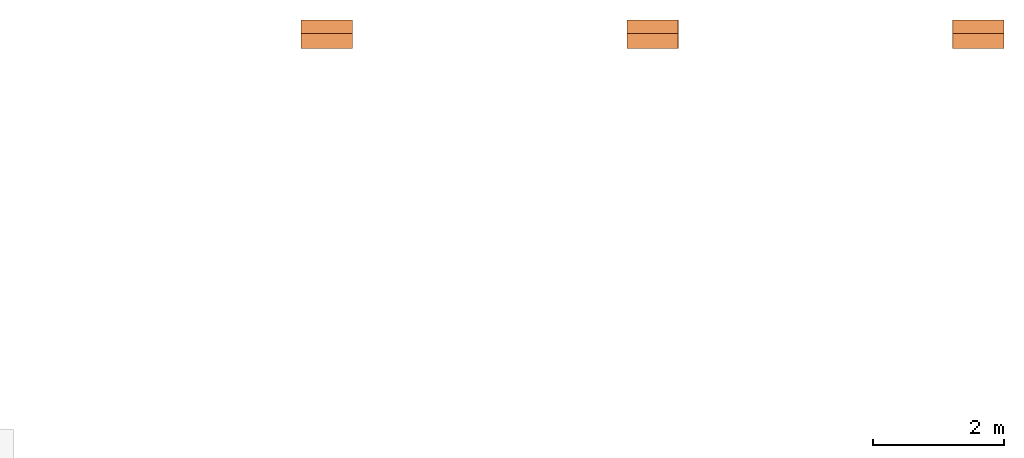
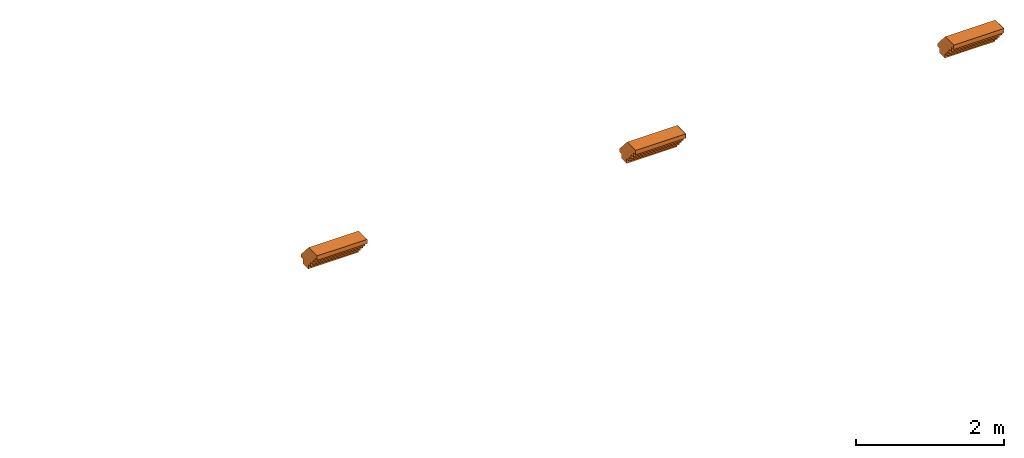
# One storey, part 2 of 2: 5 proxies.
"""IFC2X3 building model written with IfcOpenShell, lengths in metres."""

import ifcopenshell
import ifcopenshell.guid

model = None  # the IFC model being written
_history = None  # IfcOwnerHistory: only IFC2X3 demands one
_inside = {}  # id of a spatial element -> (the spatial element, [elements in it])
_under = {}  # id of a project, library or spatial element -> (it, [spatial elements below it])
_declared = {}  # id of a project -> (the project, [libraries it declares])
_typed = {}  # id of a type object -> (the type object, [elements of that type])
_made_of = {}  # id of a material, layer set ... -> (it, [elements and type objects made of it])


def new_model(schema):
    """Start an empty IFC model of exactly this schema.

    Asked for "IFC4X3", IfcOpenShell would pick the latest addendum, in which some entities
    have other attributes; the version numbers below select the first issue.
    IFC2X3 requires an IfcOwnerHistory on every rooted entity: one is made here for all.
    """
    global model, _history
    if schema == "IFC4X3":
        model = ifcopenshell.file(schema_version=(4, 3, 0, 0))
    else:
        model = ifcopenshell.file(schema=schema)
    _inside.clear()
    _under.clear()
    _declared.clear()
    _typed.clear()
    _made_of.clear()
    _history = None
    if model.schema == "IFC2X3":
        org = make("IfcOrganization", Name="unknown")
        user = make(
            "IfcPersonAndOrganization",
            ThePerson=make("IfcPerson", FamilyName="unknown"),
            TheOrganization=org,
        )
        app = make(
            "IfcApplication",
            ApplicationDeveloper=org,
            Version="unknown",
            ApplicationFullName="unknown",
            ApplicationIdentifier="unknown",
        )
        _history = make(
            "IfcOwnerHistory",
            OwningUser=user,
            OwningApplication=app,
            ChangeAction="ADDED",
            CreationDate=0,
        )
    return model


def make(cls, **values):
    """One entity of the class cls with the attributes given. An attribute that is None is left unset."""
    return model.create_entity(
        cls, **{name: value for name, value in values.items() if value is not None}
    )


def entity(cls, *values):
    """Any entity or typed value of the class cls, its attributes in the order of the schema. None: left unset."""
    e = model.create_entity(cls)
    for i, value in enumerate(values):
        if value is not None:
            e[i] = value
    return e


def rooted(cls, **values):
    """An entity with a GlobalId (a new one), such as an element, a storey or a relation."""
    return make(cls, GlobalId=ifcopenshell.guid.new(), OwnerHistory=_history, **values)


def si_unit(unit_type, name, prefix=None):
    """IfcSIUnit, for example si_unit("LENGTHUNIT", "METRE", prefix="MILLI")."""
    return make("IfcSIUnit", UnitType=unit_type, Prefix=prefix, Name=name)


def converted_unit(unit_type, name, factor, base, dimensions=None, offset=None):
    """IfcConversionBasedUnit, such as the inch: factor (a typed value) times the base unit."""
    return make(
        "IfcConversionBasedUnit"
        if offset is None
        else "IfcConversionBasedUnitWithOffset",
        ConversionOffset=offset,
        Dimensions=None
        if dimensions is None
        else entity("IfcDimensionalExponents", *dimensions),
        UnitType=unit_type,
        Name=name,
        ConversionFactor=make(
            "IfcMeasureWithUnit", ValueComponent=factor, UnitComponent=base
        ),
    )


def derived_unit(unit_type, elements):
    """IfcDerivedUnit: a product of units, each with its exponent."""
    return make(
        "IfcDerivedUnit",
        Elements=[
            make("IfcDerivedUnitElement", Unit=unit, Exponent=power)
            for unit, power in elements
        ],
        UnitType=unit_type,
    )


def assignment(units):
    """IfcUnitAssignment: the units of a project."""
    return None if units is None else make("IfcUnitAssignment", Units=units)


def point(xyz):
    """IfcCartesianPoint."""
    return None if xyz is None else make("IfcCartesianPoint", Coordinates=xyz)


def direction(xyz):
    """IfcDirection."""
    return None if xyz is None else make("IfcDirection", DirectionRatios=xyz)


def frame(location, z_axis=None, x_axis=None):
    """IfcAxis2Placement3D, a coordinate frame: its origin and axes. An axis left out is left unset."""
    return make(
        "IfcAxis2Placement3D",
        Location=point(location),
        Axis=direction(z_axis),
        RefDirection=direction(x_axis),
    )


def frame_2d(location, x_axis=None):
    """IfcAxis2Placement2D, a coordinate frame in the plane: its origin and x axis."""
    return make(
        "IfcAxis2Placement2D", Location=point(location), RefDirection=direction(x_axis)
    )


def origin():
    """The frame at (0, 0, 0) with its axes left unset."""
    return frame((0.0, 0.0, 0.0))


def place(relative_to, where):
    """IfcLocalPlacement: puts the frame where relative to a parent placement (None: the world)."""
    return make(
        "IfcLocalPlacement", PlacementRelTo=relative_to, RelativePlacement=where
    )


def context(
    kind, dimensions, precision=None, world=None, true_north=None, identifier=None
):
    """IfcGeometricRepresentationContext, for example the 3D "Model" context."""
    return make(
        "IfcGeometricRepresentationContext",
        ContextIdentifier=identifier,
        ContextType=kind,
        CoordinateSpaceDimension=dimensions,
        Precision=precision,
        WorldCoordinateSystem=world,
        TrueNorth=true_north,
    )


def subcontext(parent, identifier, kind, view, scale=None):
    """IfcGeometricRepresentationSubContext, for example "Body" below "Model"."""
    return make(
        "IfcGeometricRepresentationSubContext",
        ContextIdentifier=identifier,
        ContextType=kind,
        ParentContext=parent,
        TargetScale=scale,
        TargetView=view,
    )


def project(units=None, contexts=None):
    """IfcProject with its units and contexts."""
    return rooted(
        "IfcProject",
        Name="project",
        RepresentationContexts=contexts,
        UnitsInContext=assignment(units),
    )


def spatial(cls, under=None, at=None, **own):
    """A site, building, storey or space (cls), placed at a placement, below another one or the project."""
    s = rooted(cls, ObjectPlacement=at, **own)
    if under is not None:
        _under.setdefault(under.id(), (under, []))[1].append(s)
    return s


def polyline(points):
    """IfcPolyline through the points."""
    return make("IfcPolyline", Points=[point(p) for p in points])


def circle_curve(where, radius):
    """IfcCircle in the frame where."""
    return make("IfcCircle", Position=where, Radius=radius)


def parameter(value):
    """IfcParameterValue: where a trimmed curve begins or ends, as a parameter of its basis curve."""
    return model.create_entity("IfcParameterValue", value)


def trimmed(basis, trim1, trim2, sense, master):
    """IfcTrimmedCurve: the piece of a basis curve between two trims."""
    return make(
        "IfcTrimmedCurve",
        BasisCurve=basis,
        Trim1=trim1,
        Trim2=trim2,
        SenseAgreement=sense,
        MasterRepresentation=master,
    )


def segment(curve, same_sense, transition):
    """IfcCompositeCurveSegment."""
    return make(
        "IfcCompositeCurveSegment",
        Transition=transition,
        SameSense=same_sense,
        ParentCurve=curve,
    )


def composite_curve(segments, self_intersect=None):
    """IfcCompositeCurve: segments joined end to end."""
    return make("IfcCompositeCurve", Segments=segments, SelfIntersect=self_intersect)


def outline(outer, holes=None, kind="AREA"):
    """IfcArbitraryClosedProfileDef: a profile drawn as a closed curve; with holes, ...WithVoids."""
    if holes is None:
        return make("IfcArbitraryClosedProfileDef", ProfileType=kind, OuterCurve=outer)
    return make(
        "IfcArbitraryProfileDefWithVoids",
        ProfileType=kind,
        OuterCurve=outer,
        InnerCurves=holes,
    )


def extrude(swept, where, along, depth):
    """IfcExtrudedAreaSolid: the profile swept, set in the frame where, extruded along a direction by depth."""
    return make(
        "IfcExtrudedAreaSolid",
        SweptArea=swept,
        Position=where,
        ExtrudedDirection=direction(along),
        Depth=depth,
    )


def shape(context_of_items, identifier, shape_type, items):
    """IfcShapeRepresentation: the items that make up one representation, for example the "Body"."""
    return make(
        "IfcShapeRepresentation",
        ContextOfItems=context_of_items,
        RepresentationIdentifier=identifier,
        RepresentationType=shape_type,
        Items=items,
    )


def source(mapping_origin, context_of_items, identifier, shape_type, items):
    """IfcRepresentationMap: a shape defined once, which mapped items show again and again."""
    return make(
        "IfcRepresentationMap",
        MappingOrigin=mapping_origin,
        MappedRepresentation=shape(context_of_items, identifier, shape_type, items),
    )


def transform(
    local_origin,
    x_axis=None,
    y_axis=None,
    z_axis=None,
    scale=None,
    scale2=None,
    scale3=None,
    uniform=True,
):
    """IfcCartesianTransformationOperator3D, or its non-uniform kind. x_axis, y_axis, z_axis: its Axis1, 2, 3."""
    if uniform:
        return make(
            "IfcCartesianTransformationOperator3D",
            Axis1=direction(x_axis),
            Axis2=direction(y_axis),
            LocalOrigin=point(local_origin),
            Scale=scale,
            Axis3=direction(z_axis),
        )
    return make(
        "IfcCartesianTransformationOperator3DnonUniform",
        Axis1=direction(x_axis),
        Axis2=direction(y_axis),
        LocalOrigin=point(local_origin),
        Scale=scale,
        Axis3=direction(z_axis),
        Scale2=scale2,
        Scale3=scale3,
    )


def mapped(mapping_source, mapping_target):
    """IfcMappedItem: shows the shape of a source again, moved by a transform."""
    return make(
        "IfcMappedItem", MappingSource=mapping_source, MappingTarget=mapping_target
    )


def material(Name=None, Category=None):
    """IfcMaterial."""
    return make("IfcMaterial", Name=Name, Category=Category)


def made_of(thing, what):
    """Note that an element or type object is made of a material, layer set ...; save() writes the relation."""
    if what is not None:
        _made_of.setdefault(what.id(), (what, []))[1].append(thing)
    return thing


def type_object(cls, material=None, **own):
    """A type object (cls), such as IfcWallType, which elements share."""
    return made_of(rooted(cls, **own), material)


def type_shapes(of_type, sources):
    """Give a type object the sources (RepresentationMaps) that its elements show as mapped items."""
    of_type.RepresentationMaps = sources


def element(
    cls,
    number,
    at=None,
    inside=None,
    cuts=None,
    type_object=None,
    material=None,
    context=None,
    identifier="Body",
    shape_type=None,
    held_by="IfcProductDefinitionShape",
    body=None,
    shapes=None,
    **own,
):
    """One element of the class cls, such as IfcWall. Its Tag is "e" and its number.

    at: its placement. inside: the storey or other place that contains it. cuts: it is an
    opening in that element (IfcRelVoidsElement). A single representation is given by context,
    identifier, shape_type and body (its items); several are given by shapes. held_by: the class
    of the entity that holds the representations. save() writes the other relations.
    """
    e = rooted(cls, Tag="e%d" % number, ObjectPlacement=at, **own)
    if body is not None:
        shapes = [shape(context, identifier, shape_type, body)]
    if shapes is not None:
        e.Representation = make(held_by, Representations=shapes)
    if inside is not None:
        _inside.setdefault(inside.id(), (inside, []))[1].append(e)
    if cuts is not None:
        rooted(
            "IfcRelVoidsElement", RelatingBuildingElement=cuts, RelatedOpeningElement=e
        )
    if type_object is not None:
        _typed.setdefault(type_object.id(), (type_object, []))[1].append(e)
    return made_of(e, material)


def aggregate(whole, parts):
    """IfcRelAggregates: a whole, such as a stair, and the parts it consists of."""
    return rooted("IfcRelAggregates", RelatingObject=whole, RelatedObjects=parts)


def save(model, path):
    """Write the relations noted so far, then the file.

    IfcRelAggregates (storeys below a building ...), IfcRelContainedInSpatialStructure (elements
    in a storey), IfcRelDefinesByType, IfcRelAssociatesMaterial and IfcRelDeclares: one each for
    every whole, place, type object, material and project.
    """
    for whole, parts in _under.values():
        aggregate(whole, parts)
    for where, things in _inside.values():
        rooted(
            "IfcRelContainedInSpatialStructure",
            RelatedElements=things,
            RelatingStructure=where,
        )
    for kind, things in _typed.values():
        rooted("IfcRelDefinesByType", RelatedObjects=things, RelatingType=kind)
    for what, things in _made_of.values():
        rooted("IfcRelAssociatesMaterial", RelatedObjects=things, RelatingMaterial=what)
    for by, libraries in _declared.values():
        rooted("IfcRelDeclares", RelatingContext=by, RelatedDefinitions=libraries)
    model.write(path)


model = new_model("IFC2X3")

# Units and contexts
model_context = context("Model", 3, precision=1e-05, world=origin(), true_north=direction((6.12303176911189e-17, 1.0)))
plan_context = context("Plan", 3, precision=1e-05, world=origin(), true_north=direction((6.12303176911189e-17, 1.0)))
body_context = subcontext(model_context, "Body", "Model", "MODEL_VIEW")
ifc_project = project(units=[si_unit("LENGTHUNIT", "METRE"), si_unit("AREAUNIT", "SQUARE_METRE"), si_unit("VOLUMEUNIT", "CUBIC_METRE"), converted_unit("PLANEANGLEUNIT", "DEGREE", entity("IfcRatioMeasure", 0.0174532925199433), si_unit("PLANEANGLEUNIT", "RADIAN"), dimensions=[0, 0, 0, 0, 0, 0, 0]), si_unit("MASSUNIT", "GRAM", prefix="KILO"), derived_unit("MASSDENSITYUNIT", [(si_unit("MASSUNIT", "GRAM", prefix="KILO"), 1), (si_unit("LENGTHUNIT", "METRE"), -3)]), derived_unit("MOMENTOFINERTIAUNIT", [(si_unit("LENGTHUNIT", "METRE"), 4)]), si_unit("TIMEUNIT", "SECOND"), si_unit("FREQUENCYUNIT", "HERTZ"), si_unit("THERMODYNAMICTEMPERATUREUNIT", "DEGREE_CELSIUS"), derived_unit("THERMALTRANSMITTANCEUNIT", [(si_unit("MASSUNIT", "GRAM", prefix="KILO"), 1), (si_unit("THERMODYNAMICTEMPERATUREUNIT", "KELVIN"), -1), (si_unit("TIMEUNIT", "SECOND"), -3)]), derived_unit("VOLUMETRICFLOWRATEUNIT", [(si_unit("LENGTHUNIT", "METRE"), 3), (si_unit("TIMEUNIT", "SECOND"), -1)]), derived_unit("MASSFLOWRATEUNIT", [(si_unit("MASSUNIT", "GRAM", prefix="KILO"), 1), (si_unit("TIMEUNIT", "SECOND"), -1)]), derived_unit("ROTATIONALFREQUENCYUNIT", [(si_unit("TIMEUNIT", "SECOND"), -1)]), si_unit("ELECTRICCURRENTUNIT", "AMPERE"), si_unit("ELECTRICVOLTAGEUNIT", "VOLT"), si_unit("POWERUNIT", "WATT"), si_unit("FORCEUNIT", "NEWTON", prefix="KILO"), si_unit("ILLUMINANCEUNIT", "LUX"), si_unit("LUMINOUSFLUXUNIT", "LUMEN"), si_unit("LUMINOUSINTENSITYUNIT", "CANDELA"), derived_unit("USERDEFINED", [(si_unit("MASSUNIT", "GRAM", prefix="KILO"), -1), (si_unit("LENGTHUNIT", "METRE"), -2), (si_unit("TIMEUNIT", "SECOND"), 3), (si_unit("LUMINOUSFLUXUNIT", "LUMEN"), 1)]), derived_unit("SOUNDPOWERUNIT", [(si_unit("MASSUNIT", "GRAM", prefix="KILO"), 1), (si_unit("LENGTHUNIT", "METRE"), 2), (si_unit("TIMEUNIT", "SECOND"), -3)]), derived_unit("SOUNDPRESSUREUNIT", [(si_unit("MASSUNIT", "GRAM", prefix="KILO"), 1), (si_unit("LENGTHUNIT", "METRE"), -1), (si_unit("TIMEUNIT", "SECOND"), -2)]), derived_unit("LINEARVELOCITYUNIT", [(si_unit("LENGTHUNIT", "METRE"), 1), (si_unit("TIMEUNIT", "SECOND"), -1)]), si_unit("PRESSUREUNIT", "PASCAL"), derived_unit("USERDEFINED", [(si_unit("LENGTHUNIT", "METRE"), -2), (si_unit("MASSUNIT", "GRAM", prefix="KILO"), 1), (si_unit("TIMEUNIT", "SECOND"), -2)]), derived_unit("LINEARFORCEUNIT", [(si_unit("MASSUNIT", "GRAM", prefix="KILO"), 1), (si_unit("LENGTHUNIT", "METRE"), 1), (si_unit("TIMEUNIT", "SECOND"), -2), (si_unit("LENGTHUNIT", "METRE"), -1)]), derived_unit("PLANARFORCEUNIT", [(si_unit("MASSUNIT", "GRAM", prefix="KILO"), 1), (si_unit("LENGTHUNIT", "METRE"), 1), (si_unit("TIMEUNIT", "SECOND"), -2), (si_unit("LENGTHUNIT", "METRE"), -2)])], contexts=[model_context, plan_context])

# Site, building, storey
site_placement = place(None, frame((-11.0823275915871, 23.8300534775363, 0.0)))
site = spatial("IfcSite", under=ifc_project, at=site_placement, Name="Default", CompositionType="ELEMENT")
building_placement = place(site_placement, origin())
building = spatial("IfcBuilding", under=site, at=building_placement, Name="Englische Kirche", CompositionType="ELEMENT")
storey_placement = place(building_placement, frame((0.0, 0.0, 3.61)))
storey = spatial("IfcBuildingStorey", under=building, at=storey_placement, Name="Ebene New Gallery Stage 6", CompositionType="ELEMENT", Elevation=3.61)

# Proxies
ifc_material = material(Name="Mauerwerk - Sandstein Rot")
building_element_proxy_type = type_object("IfcBuildingElementProxyType", Name="PierCorbel:PierCorbel 780", PredefinedType="NOTDEFINED", material=ifc_material)
shared_shape = source(origin(), body_context, "Body", "SweptSolid", [
    extrude(outline(composite_curve([segment(polyline([(-0.000903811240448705, -0.208433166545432), (0.229096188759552, -0.208433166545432)]), True, "CONTINUOUS"), segment(polyline([(0.229096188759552, -0.208433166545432), (0.229096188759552, -0.136433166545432)]), True, "CONTINUOUS"), segment(polyline([(0.229096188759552, -0.136433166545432), (0.169096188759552, -0.136433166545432)]), True, "CONTINUOUS"), segment(polyline([(0.169096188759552, -0.136433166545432), (0.169096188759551, -0.0644331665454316)]), True, "CONTINUOUS"), segment(polyline([(0.169096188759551, -0.0644331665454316), (0.109096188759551, -0.0644331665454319)]), True, "CONTINUOUS"), segment(polyline([(0.109096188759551, -0.0644331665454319), (0.109096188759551, 0.00756683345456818)]), True, "CONTINUOUS"), segment(polyline([(0.109096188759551, 0.00756683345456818), (0.0490961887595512, 0.00756683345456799)]), True, "CONTINUOUS"), segment(polyline([(0.0490961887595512, 0.00756683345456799), (0.049096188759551, 0.079566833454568)]), True, "CONTINUOUS"), segment(polyline([(0.049096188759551, 0.079566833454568), (-0.010903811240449, 0.0795668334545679)]), True, "CONTINUOUS"), segment(polyline([(-0.010903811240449, 0.0795668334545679), (-0.0109038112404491, 0.151566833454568)]), True, "CONTINUOUS"), segment(polyline([(-0.0109038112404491, 0.151566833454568), (-0.156818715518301, 0.151566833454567)]), True, "CONTINUOUS"), segment(polyline([(-0.156818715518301, 0.151566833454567), (-0.156818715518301, 0.0833796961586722)]), True, "CONTINUOUS"), segment(trimmed(circle_curve(frame_2d((-0.16847691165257, 0.0833796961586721), x_axis=(1.0, 0.0)), 0.0116581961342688), [parameter(180.0)], [parameter(1.01777749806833e-13)], True, "PARAMETER"), False, "CONTINUOUS"), segment(polyline([(-0.180135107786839, 0.0833796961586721), (-0.187206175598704, 0.0763086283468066)]), True, "CONTINUOUS"), segment(trimmed(circle_curve(frame_2d((-0.192215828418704, 0.0584671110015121), x_axis=(1.0, 0.0)), 0.0185314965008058), [parameter(74.3159881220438)], [parameter(131.684011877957)], True, "PARAMETER"), True, "CONTINUOUS"), segment(polyline([(-0.20453968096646, 0.0723068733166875), (-0.20453968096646, 0.0258231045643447)]), True, "CONTINUOUS"), segment(polyline([(-0.20453968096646, 0.0258231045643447), (-0.000903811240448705, -0.208433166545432)]), True, "CONTINUOUS")], self_intersect=False)), frame((-0.39, -0.13090381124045, 0.151566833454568), z_axis=(1.0, 0.0, 0.0), x_axis=(0.0, -1.0, 0.0)), (0.0, 0.0, 1.0), 0.779999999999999),
])
type_shapes(building_element_proxy_type, [shared_shape])
for number, where, name in (
    (1, (7.64545737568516, 15.940469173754, 1.36309351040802), "PierCorbel:PierCorbel 780"),
    (2, (12.605457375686, 15.940469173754, 1.36309351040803), "PierCorbel:PierCorbel 780"),
    (3, (17.565457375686, 15.940469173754, 1.36309351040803), "PierCorbel:PierCorbel 780"),
    (4, (17.561707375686, 15.940469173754, 1.36309351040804), "PierCorbel:PierCorbel 780"),
    (5, (12.6104573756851, 15.940469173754, 1.36309351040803), "PierCorbel:PierCorbel 780"),
):
    element("IfcBuildingElementProxy", number, at=place(storey_placement, frame(where)), inside=storey, type_object=building_element_proxy_type, material=ifc_material, Name=name, ObjectType="PierCorbel:PierCorbel 780", context=body_context, shape_type="MappedRepresentation", body=[
        mapped(shared_shape, transform((0.0, 0.0, 0.0), scale=1.0)),
    ])

save(model, "model.ifc")
